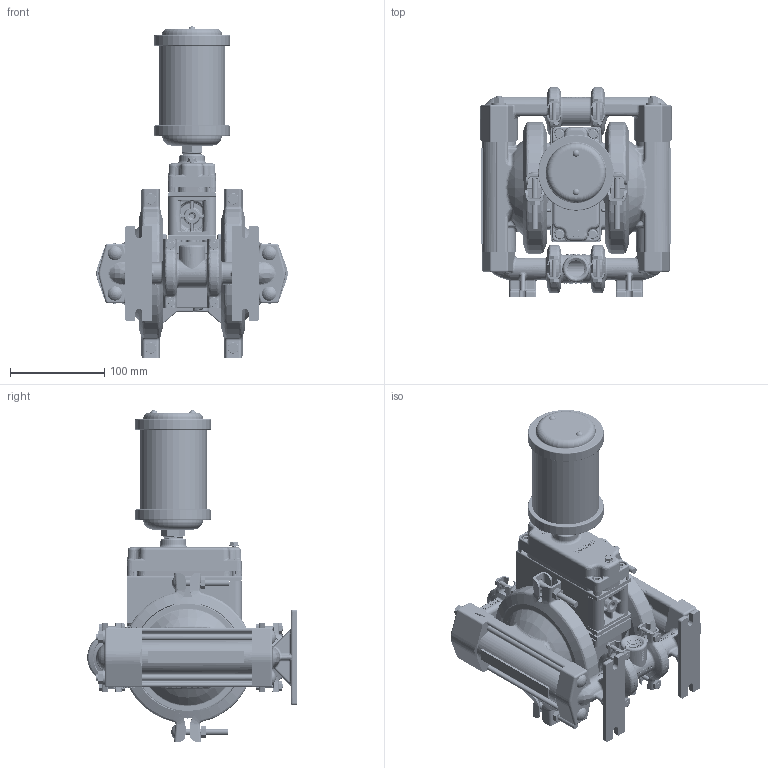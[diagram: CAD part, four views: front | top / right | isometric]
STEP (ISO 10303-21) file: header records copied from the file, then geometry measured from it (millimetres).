
FILE_DESCRIPTION((''),'2;1');
FILE_NAME('PS1_CLAMPED_SS_TOP_SW0001','2017-06-05T',('10013162'),(''),'PRO/ENGINEER BY PARAMETRIC TECHNOLOGY CORPORATION, 2015360','PRO/ENGINEER BY PARAMETRIC TECHNOLOGY CORPORATION, 2015360','');
FILE_SCHEMA(('CONFIG_CONTROL_DESIGN'));
Length unit declared in the file: inch
Products named in the file (1): PS1_CLAMPED_SS_TOP_SW0001
Bounding box: 203.61 x 222.76 x 352.53 mm (x, y, z)
Volume: 2043857.1 mm3; surface area: 616176.7 mm2
Topology: 7 solids, 7 shells, 13118 faces, 34802 edges, 22133 vertices
Faces by surface type: plane 8600, bspline 1750, cylinder 1375, cone 634, torus 502, sphere 257
Entity records: 722970 total; most frequent: CARTESIAN_POINT 415058, ORIENTED_EDGE 69552, DIRECTION 54893, EDGE_CURVE 34776, VECTOR 22359, LINE 22359, VERTEX_POINT 22133, AXIS2_PLACEMENT_3D 16267
